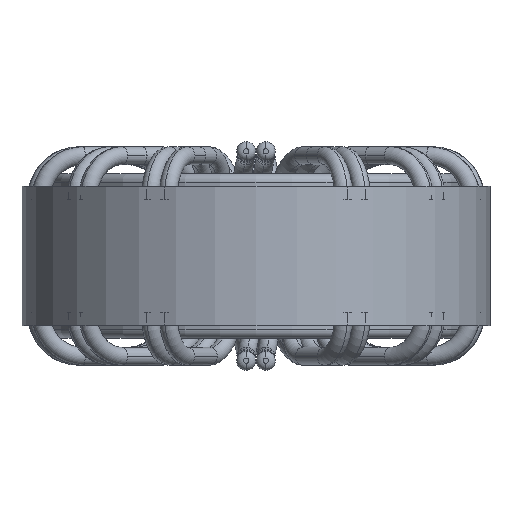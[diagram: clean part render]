
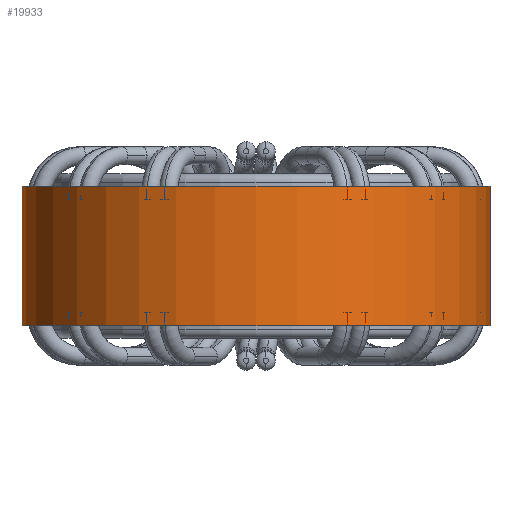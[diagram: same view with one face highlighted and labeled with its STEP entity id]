
A CAD part, front view. The second image highlights one B-rep face of the part: STEP entity #19933.
In plain terms, the highlighted cylindrical face has radius 26.825 mm (diameter 53.65 mm), a partial arc.
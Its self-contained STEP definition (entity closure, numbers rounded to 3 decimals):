
#141 = DIRECTION ( 'NONE',  ( 0., 0., -1. ) ) ;
#1573 = ORIENTED_EDGE ( 'NONE', *, *, #43508, .F. ) ;
#3256 = CARTESIAN_POINT ( 'NONE',  ( -26.825, 0., 8. ) ) ;
#5315 = VECTOR ( 'NONE', #141, 1000. ) ;
#7142 = VERTEX_POINT ( 'NONE', #36324 ) ;
#7443 = AXIS2_PLACEMENT_3D ( 'NONE', #30829, #17090, #27531 ) ;
#11340 = EDGE_CURVE ( 'NONE', #16717, #7142, #29883, .T. ) ;
#11985 = ORIENTED_EDGE ( 'NONE', *, *, #21838, .T. ) ;
#12036 = LINE ( 'NONE', #16348, #36389 ) ;
#12556 = EDGE_LOOP ( 'NONE', ( #1573, #22119, #44540, #11985 ) ) ;
#12568 = DIRECTION ( 'NONE',  ( 0., 0., -1. ) ) ;
#13851 = CYLINDRICAL_SURFACE ( 'NONE', #32204, 26.825 ) ;
#14005 = VERTEX_POINT ( 'NONE', #21710 ) ;
#15680 = DIRECTION ( 'NONE',  ( 0., 0., 1. ) ) ;
#15717 = DIRECTION ( 'NONE',  ( -1., 0., 0. ) ) ;
#16348 = CARTESIAN_POINT ( 'NONE',  ( 26.825, 0., 8. ) ) ;
#16717 = VERTEX_POINT ( 'NONE', #35779 ) ;
#17090 = DIRECTION ( 'NONE',  ( 0., 0., 1. ) ) ;
#19933 = ADVANCED_FACE ( 'NONE', ( #39275 ), #13851, .T. ) ;
#21057 = LINE ( 'NONE', #3256, #5315 ) ;
#21485 = CARTESIAN_POINT ( 'NONE',  ( 0., 0., 8. ) ) ;
#21710 = CARTESIAN_POINT ( 'NONE',  ( -26.825, 0., -8. ) ) ;
#21838 = EDGE_CURVE ( 'NONE', #14005, #32540, #36747, .T. ) ;
#21960 = EDGE_CURVE ( 'NONE', #16717, #14005, #21057, .T. ) ;
#22119 = ORIENTED_EDGE ( 'NONE', *, *, #11340, .F. ) ;
#27531 = DIRECTION ( 'NONE',  ( 1., 0., 0. ) ) ;
#29196 = DIRECTION ( 'NONE',  ( 0., 0., -1. ) ) ;
#29883 = CIRCLE ( 'NONE', #7443, 26.825 ) ;
#30829 = CARTESIAN_POINT ( 'NONE',  ( 0., 0., 8. ) ) ;
#32089 = CARTESIAN_POINT ( 'NONE',  ( 26.825, 0., -8. ) ) ;
#32204 = AXIS2_PLACEMENT_3D ( 'NONE', #21485, #29196, #15717 ) ;
#32540 = VERTEX_POINT ( 'NONE', #32089 ) ;
#35779 = CARTESIAN_POINT ( 'NONE',  ( -26.825, 0., 8. ) ) ;
#36324 = CARTESIAN_POINT ( 'NONE',  ( 26.825, 0., 8. ) ) ;
#36389 = VECTOR ( 'NONE', #12568, 1000. ) ;
#36747 = CIRCLE ( 'NONE', #44476, 26.825 ) ;
#39275 = FACE_OUTER_BOUND ( 'NONE', #12556, .T. ) ;
#43366 = DIRECTION ( 'NONE',  ( 1., 0., 0. ) ) ;
#43508 = EDGE_CURVE ( 'NONE', #7142, #32540, #12036, .T. ) ;
#43661 = CARTESIAN_POINT ( 'NONE',  ( 0., 0., -8. ) ) ;
#44476 = AXIS2_PLACEMENT_3D ( 'NONE', #43661, #15680, #43366 ) ;
#44540 = ORIENTED_EDGE ( 'NONE', *, *, #21960, .T. ) ;
